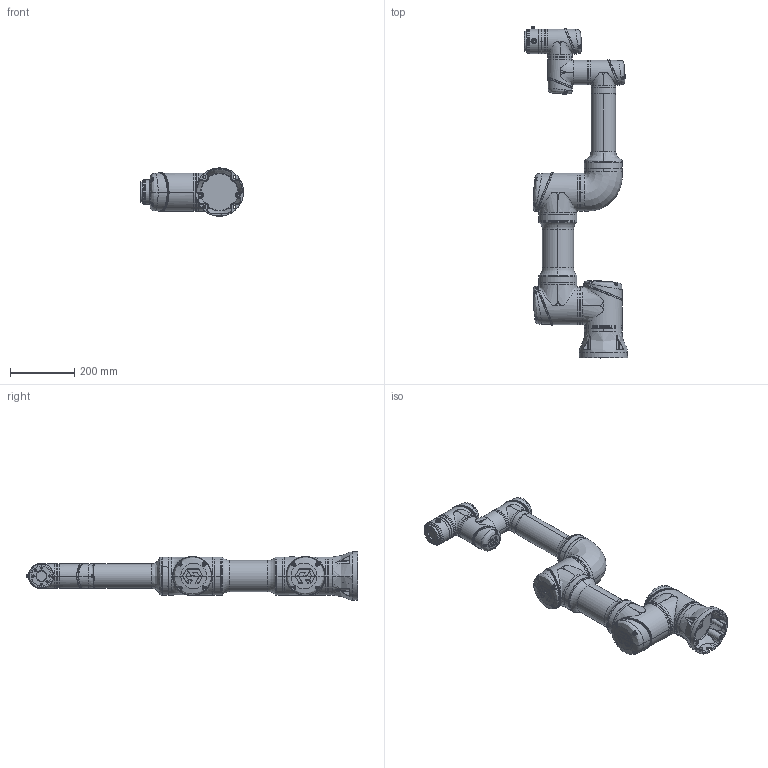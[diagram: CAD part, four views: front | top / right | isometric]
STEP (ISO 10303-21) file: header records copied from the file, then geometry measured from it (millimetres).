
FILE_DESCRIPTION (( 'STEP AP203' ), '1' );
FILE_NAME ('CS_掛极CS68F_V1.1.STEP', '2025-03-31T05:49:49', ( '' ), ( '' ), 'SwSTEP 2.0', 'SolidWorks 2017', '' );
FILE_SCHEMA (( 'CONFIG_CONTROL_DESIGN' ));
Products named in the file (8): CS68F-Link3; CS68F_藺傷; CS68F-Base; CS68F-Link5; CS68F-Link1; CS68F_Link2; CS68F-Link4; CS_掛极CS68F_V1.1
Assembly tree (7 placements, depth 2):
  CS_掛极CS68F_V1.1
    CS68F-Base
    CS68F-Link1
    CS68F_Link2
    CS68F-Link3
    CS68F-Link4
    CS68F-Link5
    CS68F_藺傷
Bounding box: 319.85 x 1030 x 149.7 mm (x, y, z)
Volume: 12592332.8 mm3; surface area: 950698.3 mm2
Topology: 75 solids, 82 shells, 4772 faces, 11470 edges, 6876 vertices
Faces by surface type: bspline 2242, plane 1121, cylinder 795, cone 343, sphere 153, torus 118
Entity records: 781118 total; most frequent: CARTESIAN_POINT 688085, ORIENTED_EDGE 22468, DIRECTION 14551, EDGE_CURVE 11234, VERTEX_POINT 6864, AXIS2_PLACEMENT_3D 6145, EDGE_LOOP 5086, B_SPLINE_CURVE_WITH_KNOTS 4839
